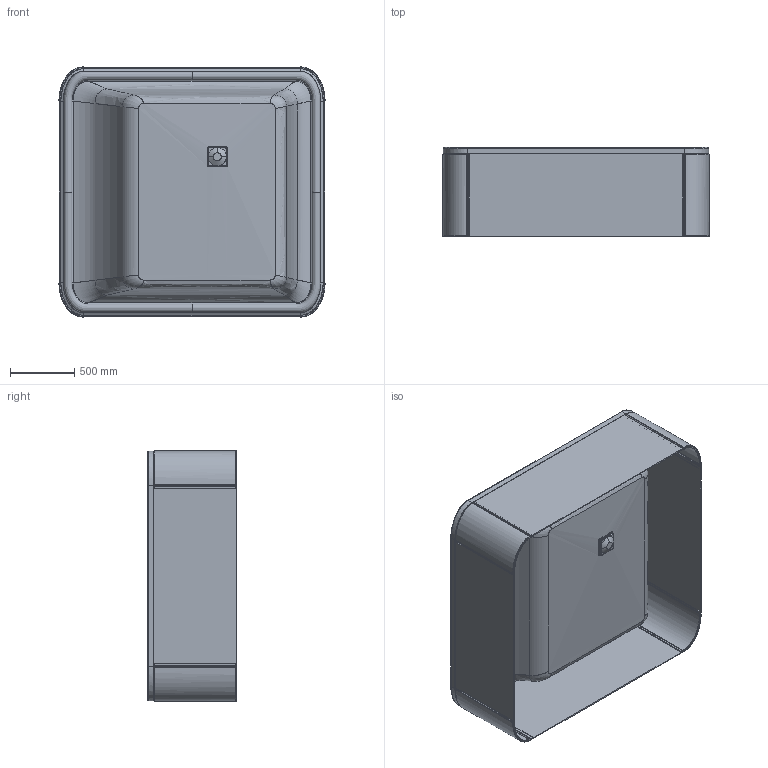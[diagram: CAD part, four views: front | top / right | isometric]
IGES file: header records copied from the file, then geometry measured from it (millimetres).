
Start section: SolidWorks IGES file using NURBS representation for surfaces
Global section: file name: D:\Marcin Kowalski\Pulpit\ERGO PLUS_kwadratowa_wiz\1.IGS; native system: SolidWorks 2010; preprocessor: SolidWorks 2010; author: m.kowalski; date: 120525.155521; units: millimetre
Bounding box: 2079 x 695 x 1953.97 mm (x, y, z)
Surface area: 17021423.1 mm2 (no closed solid volume)
Topology: 0 solids, 0 shells, 1268 faces, 10602 edges, 10592 vertices
Faces by surface type: bspline 1268
